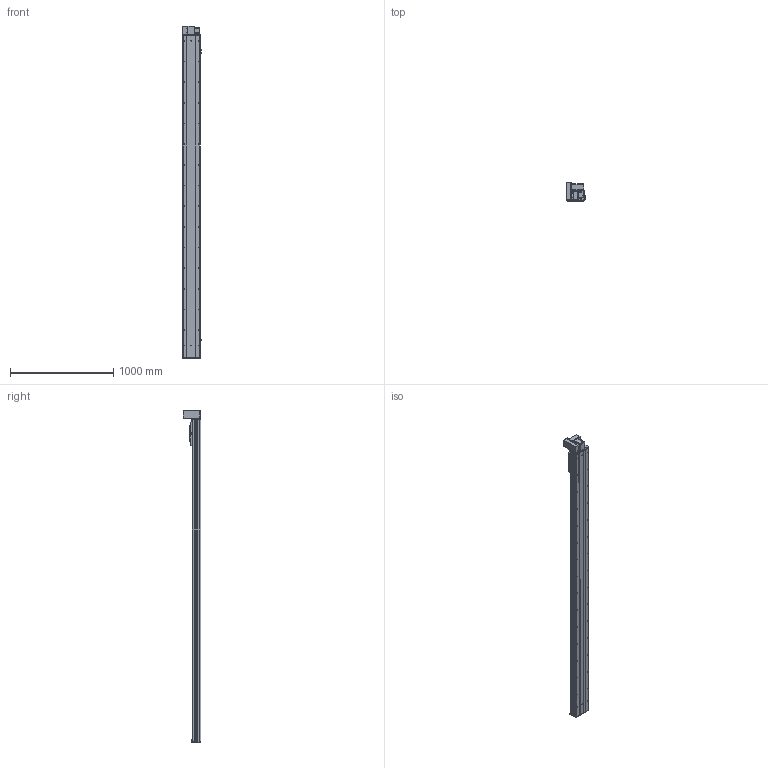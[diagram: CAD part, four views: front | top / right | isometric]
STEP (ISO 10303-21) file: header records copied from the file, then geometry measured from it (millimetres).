
FILE_DESCRIPTION (( 'STEP AP203' ), '1' );
FILE_NAME ('Y170CB-D105-S2800-UL-P400W.STEP', '2020-02-20T03:14:13', ( '微软用户' ), ( '微软中国' ), 'SwSTEP 2.0', 'SolidWorks 2017', '' );
FILE_SCHEMA (( 'CONFIG_CONTROL_DESIGN' ));
Length unit declared in the file: millimetre
Products named in the file (18): 70CB--耜裔; 00B-俋欶BM--163; 70C-雄赽釱-奻-; B-源倛裔啣; Y170CB-D105-S2800-UL-P400W; 0C--雄赽釱俋欶-170; 0B-萇儂楊擘啣; 70CB-詩湍--; san松下电机400不带刹车----; Y100-135俋离換覜ん--; 70CB-掛极-; Y170CB-陔俋离換覜結え---; --70CB --喘謫眊楊擘啣-; 70B喘謫眊----; 70CB-耜裔啣-; Y1埴倛裔; 70C--詩湍揤踡え-; 17B-耜蚾蟀諉啣----
Assembly tree (21 placements, depth 2):
  Y170CB-D105-S2800-UL-P400W
    B-源倛裔啣
    0B-萇儂楊擘啣
    san松下电机400不带刹车----
    70CB-掛极-
    --70CB --喘謫眊楊擘啣-
    70CB-耜裔啣-  x2
    70C--詩湍揤踡え-  x2
    70CB--耜裔
    70C-雄赽釱-奻-
    0C--雄赽釱俋欶-170
    70CB-詩湍--
    Y100-135俋离換覜ん--  x3
    Y170CB-陔俋离換覜結え---
    70B喘謫眊----
    Y1埴倛裔
    17B-耜蚾蟀諉啣----
    00B-俋欶BM--163
Bounding box: 183.5 x 174 x 3216 mm (x, y, z)
Volume: 13626776.4 mm3; surface area: 4924290.1 mm2
Topology: 21 solids, 21 shells, 1079 faces, 2909 edges, 1930 vertices
Faces by surface type: cylinder 593, plane 462, cone 24
Entity records: 34664 total; most frequent: CARTESIAN_POINT 6396, DIRECTION 5642, ORIENTED_EDGE 5300, EDGE_CURVE 2650, AXIS2_PLACEMENT_3D 2088, VERTEX_POINT 1760, LINE 1466, VECTOR 1466
